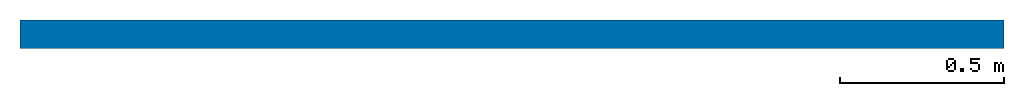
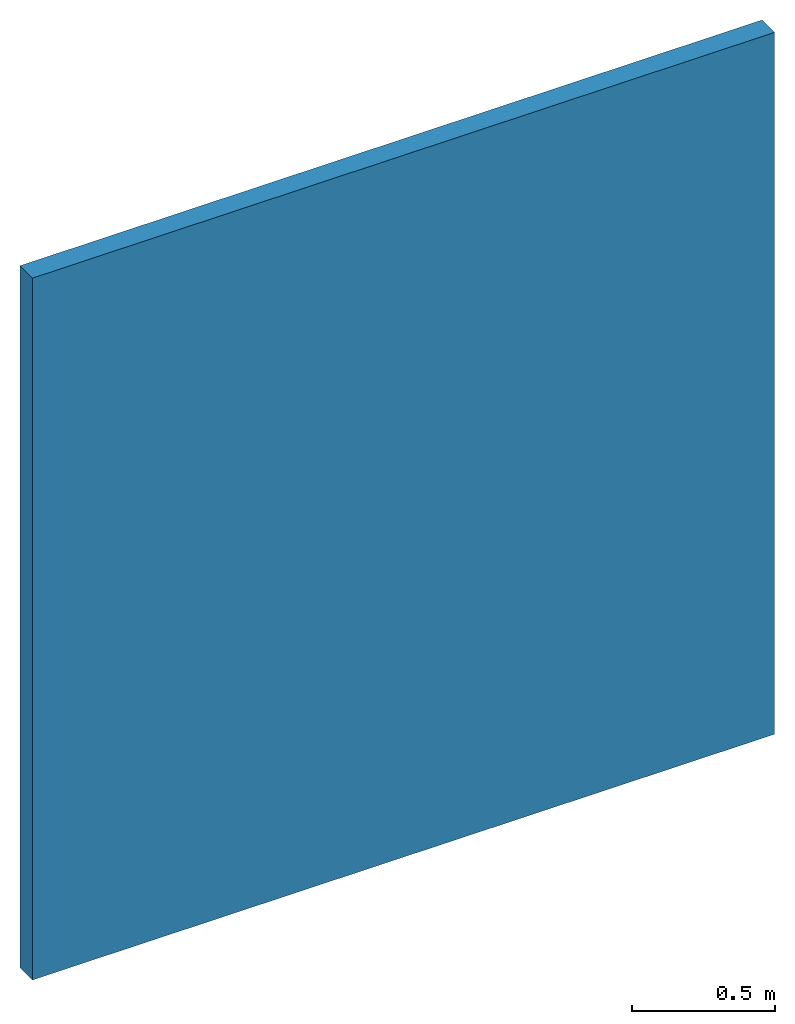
# One storey: 1 wall.
"""IFC2X3 building model written with IfcOpenShell, lengths in millimetres."""

from ifc_helpers import new_model, entity, si_unit, converted_unit, derived_unit, direction, frame, frame_2d, origin, place, context, subcontext, project, spatial, rectangle, extrude, material, layer, layer_set, layer_usage, type_object, element, save


model = new_model("IFC2X3")

# Units and contexts
model_context = context("Model", 3, precision=0.01, world=origin(), true_north=direction((6.12303176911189e-17, 1.0)))
body_context = subcontext(model_context, "Body", "Model", "MODEL_VIEW")
ifc_project = project(units=[si_unit("LENGTHUNIT", "METRE", prefix="MILLI"), si_unit("AREAUNIT", "SQUARE_METRE"), si_unit("VOLUMEUNIT", "CUBIC_METRE"), converted_unit("PLANEANGLEUNIT", "DEGREE", entity("IfcRatioMeasure", 0.0174532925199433), si_unit("PLANEANGLEUNIT", "RADIAN"), dimensions=[0, 0, 0, 0, 0, 0, 0]), si_unit("MASSUNIT", "GRAM", prefix="KILO"), si_unit("TIMEUNIT", "SECOND"), si_unit("FREQUENCYUNIT", "HERTZ"), si_unit("THERMODYNAMICTEMPERATUREUNIT", "DEGREE_CELSIUS"), derived_unit("THERMALTRANSMITTANCEUNIT", [(si_unit("MASSUNIT", "GRAM", prefix="KILO"), 1), (si_unit("THERMODYNAMICTEMPERATUREUNIT", "KELVIN"), -1), (si_unit("TIMEUNIT", "SECOND"), -3)]), derived_unit("VOLUMETRICFLOWRATEUNIT", [(si_unit("LENGTHUNIT", "METRE"), 3), (si_unit("TIMEUNIT", "SECOND"), -1)]), si_unit("ELECTRICCURRENTUNIT", "AMPERE"), si_unit("ELECTRICVOLTAGEUNIT", "VOLT"), si_unit("POWERUNIT", "WATT"), si_unit("FORCEUNIT", "NEWTON", prefix="KILO"), si_unit("ILLUMINANCEUNIT", "LUX"), si_unit("LUMINOUSFLUXUNIT", "LUMEN"), si_unit("LUMINOUSINTENSITYUNIT", "CANDELA"), derived_unit("USERDEFINED", [(si_unit("MASSUNIT", "GRAM", prefix="KILO"), -1), (si_unit("LENGTHUNIT", "METRE"), -2), (si_unit("TIMEUNIT", "SECOND"), 3), (si_unit("LUMINOUSFLUXUNIT", "LUMEN"), 1)]), derived_unit("LINEARVELOCITYUNIT", [(si_unit("LENGTHUNIT", "METRE"), 1), (si_unit("TIMEUNIT", "SECOND"), -1)]), si_unit("PRESSUREUNIT", "PASCAL"), derived_unit("USERDEFINED", [(si_unit("LENGTHUNIT", "METRE"), -2), (si_unit("MASSUNIT", "GRAM", prefix="KILO"), 1), (si_unit("TIMEUNIT", "SECOND"), -2)])], contexts=[model_context])

# Site, building, storey
site_placement = place(None, origin())
site = spatial("IfcSite", under=ifc_project, at=site_placement, Name="Default", CompositionType="ELEMENT")
building_placement = place(site_placement, origin())
building = spatial("IfcBuilding", under=site, at=building_placement, CompositionType="ELEMENT")
storey_placement = place(building_placement, origin())
storey = spatial("IfcBuildingStorey", under=building, at=storey_placement, Name="Уровень 1", CompositionType="ELEMENT", Elevation=0.0)

# Wall
ifc_material_1 = material(Name="КНАУФ-лист")
ifc_layer_1 = layer(ifc_material_1, 12.5)
ifc_material_2 = material(Name="КНАУФ-профиль+мин.вата 50@600mm")
ifc_layer_2 = layer(ifc_material_2, 50.0)
ifc_material_3 = material(Name="Luft")
ifc_layer_3 = layer(ifc_material_3, 25.0)
ifc_layer_set = layer_set([ifc_layer_1, ifc_layer_2, ifc_layer_3], Name="Базовая стена:Облицовка КНАУФ С625 Применение внутри здания ПС75х50 ПН75х40 шаг 300 мм ГСП-А 12.5")
ifc_layer_usage = layer_usage(ifc_layer_set, "AXIS2", "NEGATIVE", 43.75)
wall_type = type_object("IfcWallType", Name="Базовая стена:Облицовка КНАУФ С625 Применение внутри здания ПС75х50 ПН75х40 шаг 300 мм ГСП-А 12.5", PredefinedType="STANDARD", material=ifc_layer_set)
wall_placement = place(storey_placement, frame((-1650.17783293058, 1613.93915944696, 0.0)))
element("IfcWallStandardCase", 1, at=wall_placement, inside=storey, type_object=wall_type, material=ifc_layer_usage, Name="Базовая стена:Облицовка КНАУФ С625 Применение внутри здания ПС75х50 ПН75х40 шаг 300 мм ГСП-А 12.5", ObjectType="Базовая стена:Облицовка КНАУФ С625 Применение внутри здания ПС75х50 ПН75х40 шаг 300 мм ГСП-А 12.5", context=body_context, shape_type="SweptSolid", body=[
    extrude(rectangle(XDim=3000.0, YDim=87.5000000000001, at=frame_2d((1500.0, 0.0), x_axis=(-1.0, 0.0))), origin(), (0.0, 0.0, 1.0), 3000.0),
])

save(model, "model.ifc")
